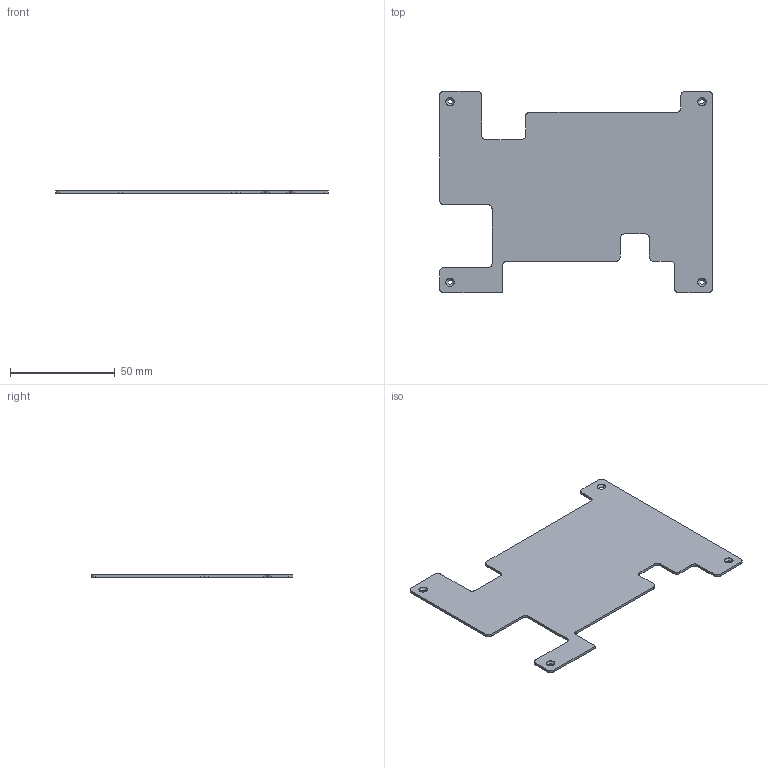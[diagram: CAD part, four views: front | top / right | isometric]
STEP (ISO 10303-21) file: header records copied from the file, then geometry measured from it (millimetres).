
FILE_DESCRIPTION (( 'STEP AP214' ), '1' );
FILE_NAME ('显示屏隔离板.STEP', '2026-09-29T01:29:47', ( '微软用户' ), ( '微软中国' ), 'SwSTEP 2.0', 'SolidWorks 2016', '' );
FILE_SCHEMA (( 'AUTOMOTIVE_DESIGN' ));
Length unit declared in the file: millimetre
Products named in the file (1): 珆尨そ路燭啣
Bounding box: 130 x 96 x 1.2 mm (x, y, z)
Volume: 10871.4 mm3; surface area: 18884.9 mm2
Topology: 1 solids, 1 shells, 69 faces, 185 edges, 118 vertices
Faces by surface type: cylinder 37, plane 24, cone 8
Entity records: 2215 total; most frequent: DIRECTION 399, CARTESIAN_POINT 373, ORIENTED_EDGE 370, EDGE_CURVE 185, AXIS2_PLACEMENT_3D 144, VERTEX_POINT 118, VECTOR 111, LINE 111
